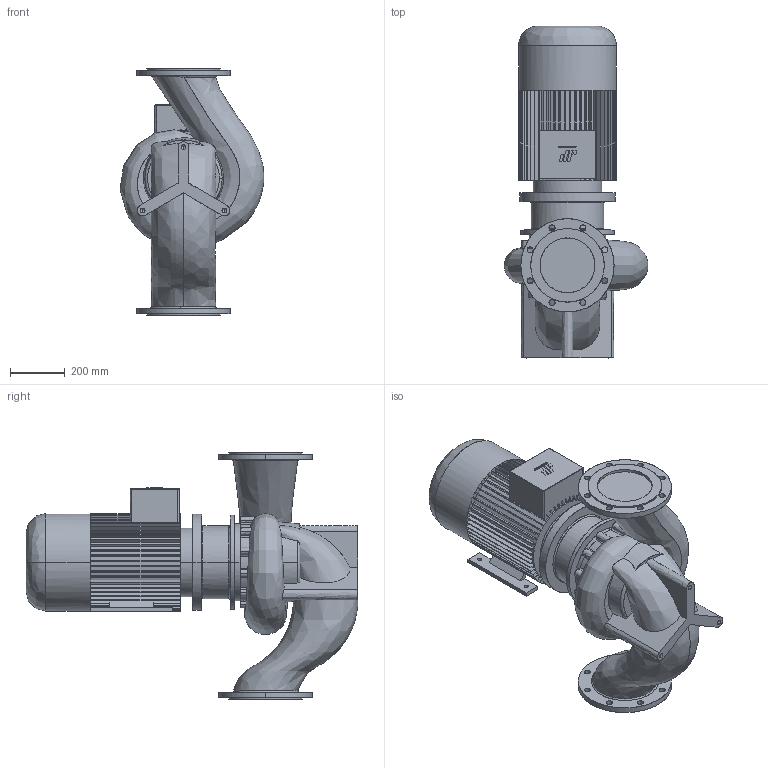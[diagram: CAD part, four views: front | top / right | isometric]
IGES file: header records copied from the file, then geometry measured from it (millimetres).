
Start section: CombiLine
Global section: file name: CLB_200-200_IEC180M_ND10.igs; native system:  By UGS Corp.; preprocessor: XPlus GENERIC/IGES 3.0; author: Stageplaats; organization: Johnson Pump Water B.V.; date: 20070718.091710; units: millimetre
Bounding box: 524.95 x 1210.5 x 900 mm (x, y, z)
Surface area: 3334628.8 mm2 (no closed solid volume)
Topology: 0 solids, 0 shells, 629 faces, 3818 edges, 3812 vertices
Faces by surface type: bspline 629
